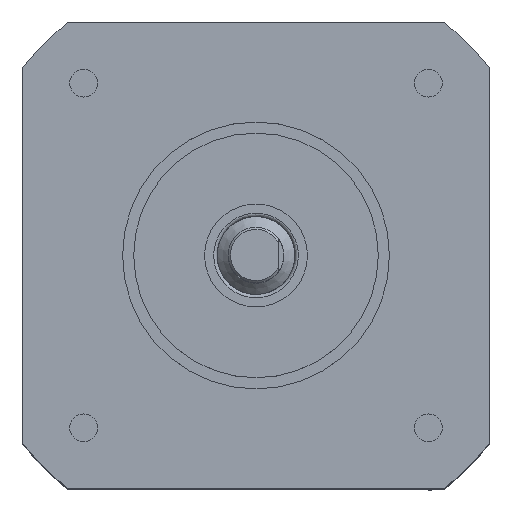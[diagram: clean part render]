
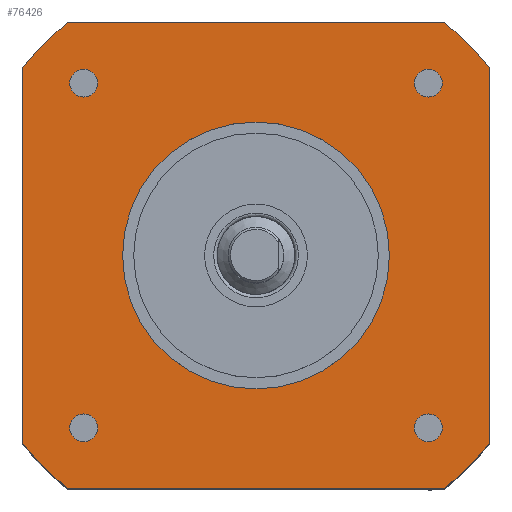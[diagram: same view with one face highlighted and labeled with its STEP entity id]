
A CAD part, top view. The second image highlights one B-rep face of the part: STEP entity #76426.
In plain terms, the highlighted planar face has unit normal (0, 0, 1).
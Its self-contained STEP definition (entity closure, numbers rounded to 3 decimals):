
#2409 = ORIENTED_EDGE ( 'NONE', *, *, #127139, .F. ) ;
#3879 = CARTESIAN_POINT ( 'NONE',  ( -44.49, 45.972, 3.5 ) ) ;
#12314 = EDGE_CURVE ( 'NONE', #119544, #83763, #95338, .T. ) ;
#15642 = VERTEX_POINT ( 'NONE', #198476 ) ;
#17104 = ORIENTED_EDGE ( 'NONE', *, *, #145427, .F. ) ;
#17288 = VERTEX_POINT ( 'NONE', #83621 ) ;
#20577 = CIRCLE ( 'NONE', #187434, 1.25 ) ;
#20940 = LINE ( 'NONE', #91299, #133486 ) ;
#22311 = EDGE_LOOP ( 'NONE', ( #180855 ) ) ;
#22329 = CARTESIAN_POINT ( 'NONE',  ( -61.24, 30.472, 3.5 ) ) ;
#25543 = ORIENTED_EDGE ( 'NONE', *, *, #192112, .F. ) ;
#25811 = EDGE_CURVE ( 'NONE', #183005, #214712, #50639, .T. ) ;
#26736 = CARTESIAN_POINT ( 'NONE',  ( -61.24, 30.472, 3.5 ) ) ;
#27974 = ORIENTED_EDGE ( 'NONE', *, *, #174668, .F. ) ;
#29640 = DIRECTION ( 'NONE',  ( 1., 0., 0. ) ) ;
#30734 = CARTESIAN_POINT ( 'NONE',  ( -61.24, 30.472, 3.5 ) ) ;
#30885 = FACE_BOUND ( 'NONE', #201977, .T. ) ;
#33195 = DIRECTION ( 'NONE',  ( 0., -1., 0. ) ) ;
#34574 = AXIS2_PLACEMENT_3D ( 'NONE', #157732, #190439, #76138 ) ;
#36855 = ORIENTED_EDGE ( 'NONE', *, *, #12314, .F. ) ;
#38940 = EDGE_LOOP ( 'NONE', ( #17104 ) ) ;
#40272 = EDGE_CURVE ( 'NONE', #105530, #105530, #72245, .T. ) ;
#42853 = CARTESIAN_POINT ( 'NONE',  ( -78.131, 9.472, 3.5 ) ) ;
#43186 = AXIS2_PLACEMENT_3D ( 'NONE', #160618, #211802, #175912 ) ;
#46236 = CIRCLE ( 'NONE', #63659, 1.25 ) ;
#47352 = CARTESIAN_POINT ( 'NONE',  ( -82.24, 47.363, 3.5 ) ) ;
#48408 = CARTESIAN_POINT ( 'NONE',  ( -75.49, 45.972, 3.5 ) ) ;
#50639 = CIRCLE ( 'NONE', #141088, 26.95 ) ;
#58540 = CARTESIAN_POINT ( 'NONE',  ( -78.131, 9.472, 3.5 ) ) ;
#60638 = DIRECTION ( 'NONE',  ( 1., 0., 0. ) ) ;
#63324 = DIRECTION ( 'NONE',  ( 0., 0., -1. ) ) ;
#63659 = AXIS2_PLACEMENT_3D ( 'NONE', #131048, #152753, #67866 ) ;
#64164 = EDGE_LOOP ( 'NONE', ( #27974 ) ) ;
#66087 = CIRCLE ( 'NONE', #194856, 12. ) ;
#67866 = DIRECTION ( 'NONE',  ( 1., 0., 0. ) ) ;
#69828 = VECTOR ( 'NONE', #33195, 1000. ) ;
#71801 = FACE_BOUND ( 'NONE', #22311, .T. ) ;
#72136 = VERTEX_POINT ( 'NONE', #77362 ) ;
#72245 = CIRCLE ( 'NONE', #89673, 1.25 ) ;
#74434 = AXIS2_PLACEMENT_3D ( 'NONE', #26736, #161652, #192210 ) ;
#76138 = DIRECTION ( 'NONE',  ( 1., 0., 0. ) ) ;
#76426 = ADVANCED_FACE ( 'NONE', ( #153448, #71801, #121794, #30885, #134953, #101221 ), #201431, .T. ) ;
#77147 = CIRCLE ( 'NONE', #108465, 1.25 ) ;
#77362 = CARTESIAN_POINT ( 'NONE',  ( -40.24, 13.581, 3.5 ) ) ;
#77452 = CARTESIAN_POINT ( 'NONE',  ( -76.74, 14.972, 3.5 ) ) ;
#77755 = LINE ( 'NONE', #42853, #96029 ) ;
#83621 = CARTESIAN_POINT ( 'NONE',  ( -75.49, 14.972, 3.5 ) ) ;
#83763 = VERTEX_POINT ( 'NONE', #84177 ) ;
#84177 = CARTESIAN_POINT ( 'NONE',  ( -82.24, 13.581, 3.5 ) ) ;
#89673 = AXIS2_PLACEMENT_3D ( 'NONE', #194582, #195626, #60638 ) ;
#89729 = VERTEX_POINT ( 'NONE', #3879 ) ;
#90798 = DIRECTION ( 'NONE',  ( 0., 0., -1. ) ) ;
#91299 = CARTESIAN_POINT ( 'NONE',  ( -78.131, 51.472, 3.5 ) ) ;
#95338 = CIRCLE ( 'NONE', #74434, 26.95 ) ;
#96029 = VECTOR ( 'NONE', #109272, 1000. ) ;
#97155 = CARTESIAN_POINT ( 'NONE',  ( -40.24, 47.363, 3.5 ) ) ;
#98649 = VERTEX_POINT ( 'NONE', #138590 ) ;
#99869 = DIRECTION ( 'NONE',  ( 0., 0., 1. ) ) ;
#101211 = EDGE_CURVE ( 'NONE', #214712, #72136, #169200, .T. ) ;
#101221 = FACE_OUTER_BOUND ( 'NONE', #199326, .T. ) ;
#102143 = EDGE_CURVE ( 'NONE', #17288, #17288, #77147, .T. ) ;
#104172 = VERTEX_POINT ( 'NONE', #212617 ) ;
#105530 = VERTEX_POINT ( 'NONE', #150273 ) ;
#105542 = CARTESIAN_POINT ( 'NONE',  ( -45.74, 45.972, 3.5 ) ) ;
#106397 = EDGE_CURVE ( 'NONE', #195435, #195435, #46236, .T. ) ;
#107663 = DIRECTION ( 'NONE',  ( 1., 0., 0. ) ) ;
#108465 = AXIS2_PLACEMENT_3D ( 'NONE', #77452, #160162, #159088 ) ;
#109272 = DIRECTION ( 'NONE',  ( -1., 0., 0. ) ) ;
#114921 = VECTOR ( 'NONE', #181318, 1000. ) ;
#119544 = VERTEX_POINT ( 'NONE', #58540 ) ;
#121794 = FACE_BOUND ( 'NONE', #210919, .T. ) ;
#127139 = EDGE_CURVE ( 'NONE', #83763, #184115, #143183, .T. ) ;
#130314 = ORIENTED_EDGE ( 'NONE', *, *, #159502, .F. ) ;
#131048 = CARTESIAN_POINT ( 'NONE',  ( -76.74, 45.972, 3.5 ) ) ;
#133486 = VECTOR ( 'NONE', #143489, 1000. ) ;
#134953 = FACE_BOUND ( 'NONE', #64164, .T. ) ;
#135430 = CARTESIAN_POINT ( 'NONE',  ( -40.24, 47.363, 3.5 ) ) ;
#136528 = DIRECTION ( 'NONE',  ( 1., 0., 0. ) ) ;
#138590 = CARTESIAN_POINT ( 'NONE',  ( -78.131, 51.472, 3.5 ) ) ;
#141088 = AXIS2_PLACEMENT_3D ( 'NONE', #22329, #90798, #136528 ) ;
#142463 = DIRECTION ( 'NONE',  ( 0., 0., 1. ) ) ;
#143183 = LINE ( 'NONE', #47352, #114921 ) ;
#143489 = DIRECTION ( 'NONE',  ( 1., 0., 0. ) ) ;
#145427 = EDGE_CURVE ( 'NONE', #89729, #89729, #20577, .T. ) ;
#149933 = CIRCLE ( 'NONE', #163909, 26.95 ) ;
#150273 = CARTESIAN_POINT ( 'NONE',  ( -44.49, 14.972, 3.5 ) ) ;
#152753 = DIRECTION ( 'NONE',  ( 0., 0., 1. ) ) ;
#153448 = FACE_BOUND ( 'NONE', #38940, .T. ) ;
#155044 = ORIENTED_EDGE ( 'NONE', *, *, #194188, .F. ) ;
#157732 = CARTESIAN_POINT ( 'NONE',  ( -61.24, 30.472, 3.5 ) ) ;
#157881 = CIRCLE ( 'NONE', #43186, 26.95 ) ;
#159003 = ORIENTED_EDGE ( 'NONE', *, *, #188750, .F. ) ;
#159088 = DIRECTION ( 'NONE',  ( 1., 0., 0. ) ) ;
#159502 = EDGE_CURVE ( 'NONE', #72136, #104172, #157881, .T. ) ;
#160162 = DIRECTION ( 'NONE',  ( 0., 0., 1. ) ) ;
#160618 = CARTESIAN_POINT ( 'NONE',  ( -61.24, 30.472, 3.5 ) ) ;
#161652 = DIRECTION ( 'NONE',  ( 0., 0., -1. ) ) ;
#163909 = AXIS2_PLACEMENT_3D ( 'NONE', #30734, #63324, #29640 ) ;
#165214 = CARTESIAN_POINT ( 'NONE',  ( -61.24, 30.472, 3.5 ) ) ;
#166556 = ORIENTED_EDGE ( 'NONE', *, *, #106397, .F. ) ;
#169200 = LINE ( 'NONE', #135430, #69828 ) ;
#174668 = EDGE_CURVE ( 'NONE', #15642, #15642, #66087, .T. ) ;
#175912 = DIRECTION ( 'NONE',  ( 1., 0., 0. ) ) ;
#180535 = DIRECTION ( 'NONE',  ( 1., 0., 0. ) ) ;
#180855 = ORIENTED_EDGE ( 'NONE', *, *, #40272, .F. ) ;
#181318 = DIRECTION ( 'NONE',  ( 0., 1., 0. ) ) ;
#183005 = VERTEX_POINT ( 'NONE', #199963 ) ;
#184115 = VERTEX_POINT ( 'NONE', #213157 ) ;
#187434 = AXIS2_PLACEMENT_3D ( 'NONE', #105542, #142463, #107663 ) ;
#188750 = EDGE_CURVE ( 'NONE', #184115, #98649, #149933, .T. ) ;
#190439 = DIRECTION ( 'NONE',  ( 0., 0., 1. ) ) ;
#192112 = EDGE_CURVE ( 'NONE', #98649, #183005, #20940, .T. ) ;
#192210 = DIRECTION ( 'NONE',  ( 1., 0., 0. ) ) ;
#194188 = EDGE_CURVE ( 'NONE', #104172, #119544, #77755, .T. ) ;
#194582 = CARTESIAN_POINT ( 'NONE',  ( -45.74, 14.972, 3.5 ) ) ;
#194856 = AXIS2_PLACEMENT_3D ( 'NONE', #165214, #99869, #180535 ) ;
#195435 = VERTEX_POINT ( 'NONE', #48408 ) ;
#195626 = DIRECTION ( 'NONE',  ( 0., 0., 1. ) ) ;
#198476 = CARTESIAN_POINT ( 'NONE',  ( -49.24, 30.472, 3.5 ) ) ;
#199326 = EDGE_LOOP ( 'NONE', ( #25543, #159003, #2409, #36855, #155044, #130314, #212118, #214378 ) ) ;
#199963 = CARTESIAN_POINT ( 'NONE',  ( -44.349, 51.472, 3.5 ) ) ;
#201431 = PLANE ( 'NONE',  #34574 ) ;
#201977 = EDGE_LOOP ( 'NONE', ( #166556 ) ) ;
#206999 = ORIENTED_EDGE ( 'NONE', *, *, #102143, .F. ) ;
#210919 = EDGE_LOOP ( 'NONE', ( #206999 ) ) ;
#211802 = DIRECTION ( 'NONE',  ( 0., 0., -1. ) ) ;
#212118 = ORIENTED_EDGE ( 'NONE', *, *, #101211, .F. ) ;
#212617 = CARTESIAN_POINT ( 'NONE',  ( -44.349, 9.472, 3.5 ) ) ;
#213157 = CARTESIAN_POINT ( 'NONE',  ( -82.24, 47.363, 3.5 ) ) ;
#214378 = ORIENTED_EDGE ( 'NONE', *, *, #25811, .F. ) ;
#214712 = VERTEX_POINT ( 'NONE', #97155 ) ;
